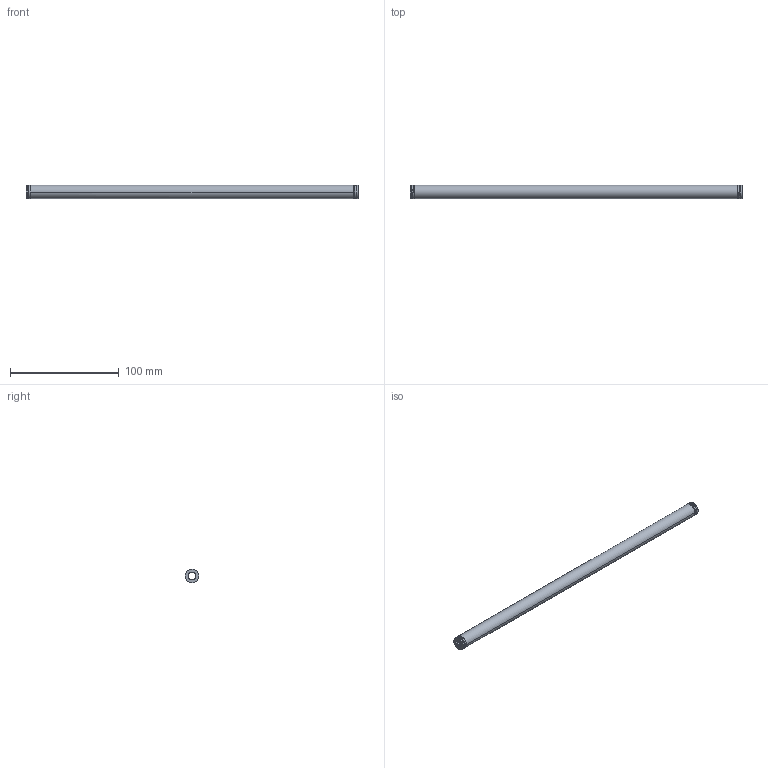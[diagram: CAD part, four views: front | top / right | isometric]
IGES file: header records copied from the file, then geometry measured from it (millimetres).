
Start section: START RECORD GO HERE.
Global section: file name: 392-B10-305.igs; native system: DASSAULT SYSTEMES CATIA V5 R20 - www.3ds.com; preprocessor: CATIA Version 5 Release 20 ; author: Utente; organization: NB04-ASUS; date: 20210812.150457; units: millimetre
Bounding box: 305 x 12.29 x 12.2 mm (x, y, z)
Surface area: 19199.7 mm2 (no closed solid volume)
Topology: 0 solids, 0 shells, 38 faces, 184 edges, 184 vertices
Faces by surface type: revolution 28, plane 10
